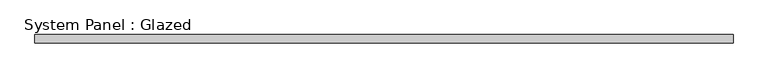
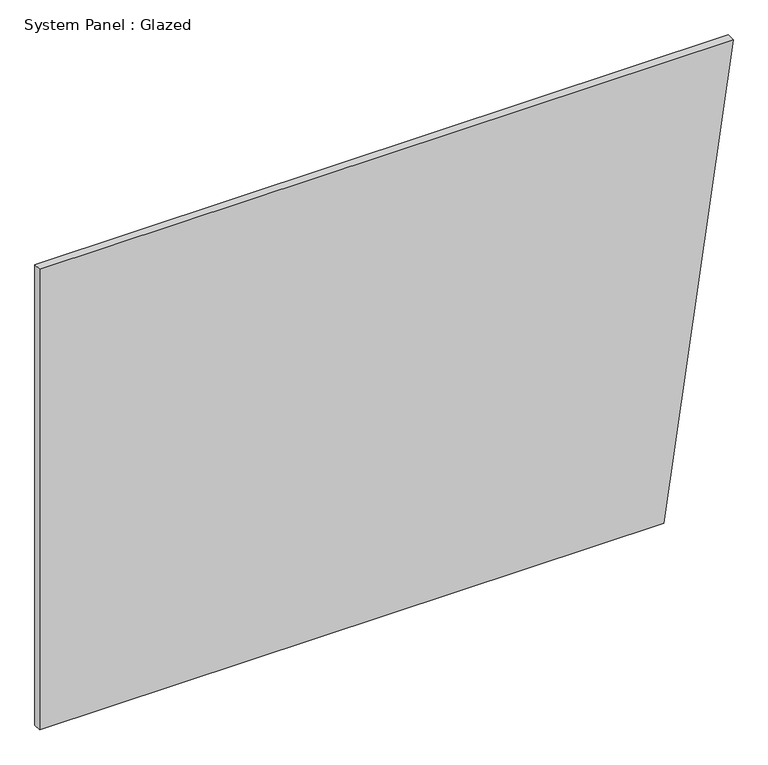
"""IFC4 building model written with IfcOpenShell, lengths in millimetres: plate geometry, System Panel : Glazed."""

from ifc_helpers import new_model, si_unit, frame, origin, place, context, project, spatial, polyline, outline, extrude, source, transform, mapped, element, save


def system_panel_glazed_3bf20684(model_context):
    return source(origin(), model_context, "Body", "SweptSolid", [
        extrude(outline(polyline([(0.0, -1085.2267755), (0.0, 868.1814204), (1524.0, 1085.2267755), (1524.0, -1085.2267755), (0.0, -1085.2267755)])), frame((0.0, 19.05, 0.0), z_axis=(0.0, 1.0, 0.0), x_axis=(0.0, 0.0, 1.0)), (0.0, 0.0, 1.0), 25.4),
    ])


if __name__ == "__main__":
    model = new_model("IFC4")
    model_context = context("Model", 3, world=origin())
    ifc_project = project(units=[si_unit("LENGTHUNIT", "METRE", prefix="MILLI")], contexts=[model_context])
    site = spatial("IfcSite", under=ifc_project)
    building = spatial("IfcBuilding", under=site)
    placement = place(None, origin())
    system_panel_glazed_shape = system_panel_glazed_3bf20684(model_context)
    element("IfcPlate", 1, ObjectType="System Panel : Glazed", at=placement, inside=building, context=model_context, shape_type="MappedRepresentation", body=[
        mapped(system_panel_glazed_shape, transform((0.0, 0.0, 0.0), x_axis=(1.0, 0.0, 0.0), y_axis=(0.0, 1.0, 0.0), z_axis=(0.0, 0.0, 1.0))),
    ])
    save(model, "model.ifc")
